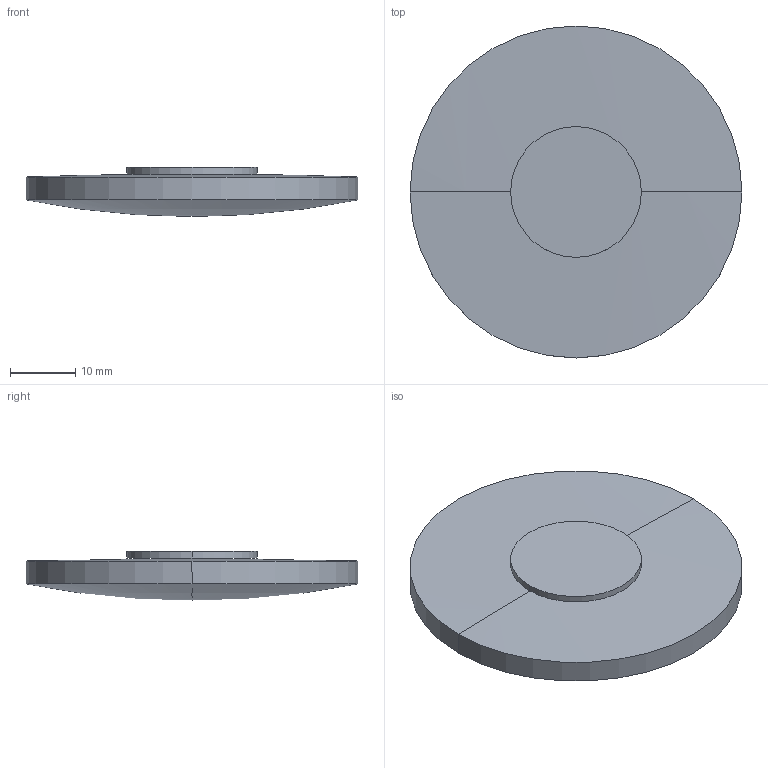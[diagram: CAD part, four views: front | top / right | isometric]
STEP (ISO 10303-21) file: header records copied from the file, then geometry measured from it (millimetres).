
FILE_DESCRIPTION(('STEP AP214'),'1');
FILE_NAME('LLQ-51240.STEP','2020-03-09T17:41:52',(' '),(' '),'Spatial InterOp 3D',' ',' ');
FILE_SCHEMA(('AUTOMOTIVE_DESIGN { 1 0 10303 214 1 1 1 1 }'));
Length unit declared in the file: millimetre
Products named in the file (1): 1
Bounding box: 50.8 x 50.8 x 7.5 mm (x, y, z)
Volume: 10464.4 mm3; surface area: 5325.4 mm2
Topology: 2 solids, 2 shells, 10 faces, 20 edges, 10 vertices
Faces by surface type: sphere 4, cylinder 4, plane 2
Entity records: 255 total; most frequent: DIRECTION 52, CARTESIAN_POINT 38, ORIENTED_EDGE 32, AXIS2_PLACEMENT_3D 24, EDGE_CURVE 16, CIRCLE 12, ADVANCED_FACE 10, FACE_OUTER_BOUND 10
